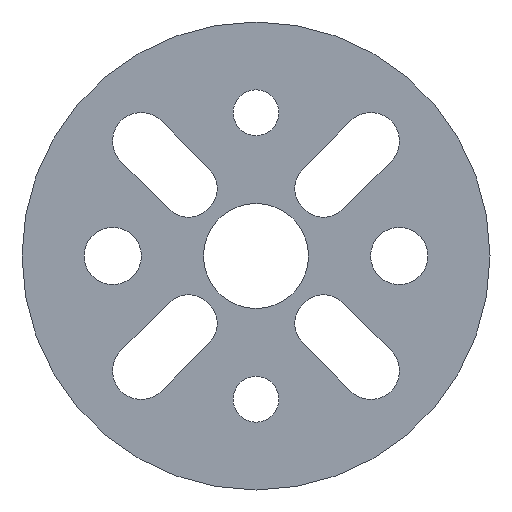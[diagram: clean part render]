
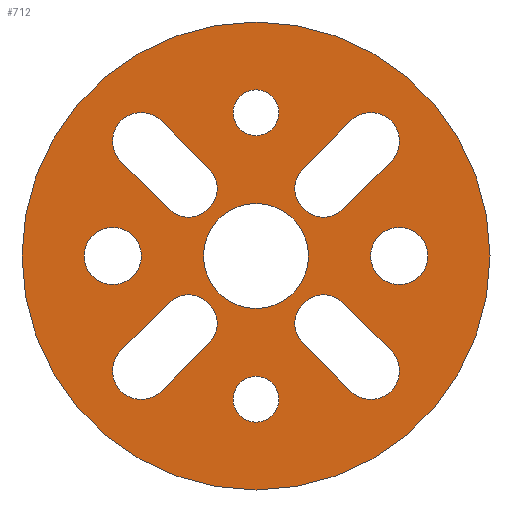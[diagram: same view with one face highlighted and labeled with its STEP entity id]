
A CAD part, left-side view. The second image highlights one B-rep face of the part: STEP entity #712.
In plain terms, the highlighted planar face has unit normal (-1, 0, 0).
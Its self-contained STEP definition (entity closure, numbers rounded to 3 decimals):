
#86=CARTESIAN_POINT('Axis2P3D Location',(-3.,0.,15.)) ;
#90=CARTESIAN_POINT('Vertex',(-3.,-2.4,15.)) ;
#92=CARTESIAN_POINT('Vertex',(-3.,2.4,15.)) ;
#113=CARTESIAN_POINT('Axis2P3D Location',(-3.,0.,15.)) ;
#135=CARTESIAN_POINT('Vertex',(-3.,24.5,0.)) ;
#140=CARTESIAN_POINT('Axis2P3D Location',(-3.,0.,0.)) ;
#144=CARTESIAN_POINT('Vertex',(-3.,-24.5,0.)) ;
#166=CARTESIAN_POINT('Axis2P3D Location',(-3.,0.,0.)) ;
#201=CARTESIAN_POINT('Vertex',(-3.,-5.5,0.)) ;
#204=CARTESIAN_POINT('Axis2P3D Location',(-3.,0.,0.)) ;
#208=CARTESIAN_POINT('Vertex',(-3.,5.5,0.)) ;
#236=CARTESIAN_POINT('Axis2P3D Location',(-3.,0.,0.)) ;
#260=CARTESIAN_POINT('Vertex',(-3.,12.,0.)) ;
#274=CARTESIAN_POINT('Vertex',(-3.,18.,0.)) ;
#277=CARTESIAN_POINT('Axis2P3D Location',(-3.,15.,0.)) ;
#302=CARTESIAN_POINT('Axis2P3D Location',(-3.,15.,0.)) ;
#326=CARTESIAN_POINT('Vertex',(-3.,-18.,0.)) ;
#340=CARTESIAN_POINT('Vertex',(-3.,-12.,0.)) ;
#343=CARTESIAN_POINT('Axis2P3D Location',(-3.,-15.,0.)) ;
#361=CARTESIAN_POINT('Axis2P3D Location',(-3.,-15.,0.)) ;
#507=CARTESIAN_POINT('Axis2P3D Location',(-3.,0.,-15.)) ;
#511=CARTESIAN_POINT('Vertex',(-3.,-2.4,-15.)) ;
#513=CARTESIAN_POINT('Vertex',(-3.,2.4,-15.)) ;
#534=CARTESIAN_POINT('Axis2P3D Location',(-3.,0.,-15.)) ;
#547=CARTESIAN_POINT('Axis2P3D Location',(-3.,0.,0.)) ;
#556=CARTESIAN_POINT('Line Origine',(-3.,7.425,11.667)) ;
#560=CARTESIAN_POINT('Vertex',(-3.,4.95,9.192)) ;
#562=CARTESIAN_POINT('Vertex',(-3.,9.899,14.142)) ;
#565=CARTESIAN_POINT('Axis2P3D Location',(-3.,7.071,7.071)) ;
#569=CARTESIAN_POINT('Vertex',(-3.,9.192,4.95)) ;
#572=CARTESIAN_POINT('Line Origine',(-3.,11.667,7.425)) ;
#576=CARTESIAN_POINT('Vertex',(-3.,14.142,9.899)) ;
#579=CARTESIAN_POINT('Axis2P3D Location',(-3.,12.021,12.021)) ;
#610=CARTESIAN_POINT('Line Origine',(-3.,-7.425,11.667)) ;
#614=CARTESIAN_POINT('Vertex',(-3.,-9.899,14.142)) ;
#616=CARTESIAN_POINT('Vertex',(-3.,-4.95,9.192)) ;
#619=CARTESIAN_POINT('Axis2P3D Location',(-3.,-12.021,12.021)) ;
#623=CARTESIAN_POINT('Vertex',(-3.,-14.142,9.899)) ;
#626=CARTESIAN_POINT('Line Origine',(-3.,-11.667,7.425)) ;
#630=CARTESIAN_POINT('Vertex',(-3.,-9.192,4.95)) ;
#633=CARTESIAN_POINT('Axis2P3D Location',(-3.,-7.071,7.071)) ;
#644=CARTESIAN_POINT('Line Origine',(-3.,-11.667,-7.425)) ;
#648=CARTESIAN_POINT('Vertex',(-3.,-14.142,-9.899)) ;
#650=CARTESIAN_POINT('Vertex',(-3.,-9.192,-4.95)) ;
#653=CARTESIAN_POINT('Axis2P3D Location',(-3.,-12.021,-12.021)) ;
#657=CARTESIAN_POINT('Vertex',(-3.,-9.899,-14.142)) ;
#660=CARTESIAN_POINT('Line Origine',(-3.,-7.425,-11.667)) ;
#664=CARTESIAN_POINT('Vertex',(-3.,-4.95,-9.192)) ;
#667=CARTESIAN_POINT('Axis2P3D Location',(-3.,-7.071,-7.071)) ;
#678=CARTESIAN_POINT('Line Origine',(-3.,7.425,-11.667)) ;
#682=CARTESIAN_POINT('Vertex',(-3.,9.899,-14.142)) ;
#684=CARTESIAN_POINT('Vertex',(-3.,4.95,-9.192)) ;
#687=CARTESIAN_POINT('Axis2P3D Location',(-3.,12.021,-12.021)) ;
#691=CARTESIAN_POINT('Vertex',(-3.,14.142,-9.899)) ;
#694=CARTESIAN_POINT('Line Origine',(-3.,11.667,-7.425)) ;
#698=CARTESIAN_POINT('Vertex',(-3.,9.192,-4.95)) ;
#701=CARTESIAN_POINT('Axis2P3D Location',(-3.,7.071,-7.071)) ;
#558=VECTOR('Line Direction',#557,1.) ;
#574=VECTOR('Line Direction',#573,1.) ;
#612=VECTOR('Line Direction',#611,1.) ;
#628=VECTOR('Line Direction',#627,1.) ;
#646=VECTOR('Line Direction',#645,1.) ;
#662=VECTOR('Line Direction',#661,1.) ;
#680=VECTOR('Line Direction',#679,1.) ;
#696=VECTOR('Line Direction',#695,1.) ;
#87=DIRECTION('Axis2P3D Direction',(-1.,0.,-0.)) ;
#114=DIRECTION('Axis2P3D Direction',(-1.,0.,-0.)) ;
#141=DIRECTION('Axis2P3D Direction',(1.,0.,0.)) ;
#167=DIRECTION('Axis2P3D Direction',(1.,0.,0.)) ;
#205=DIRECTION('Axis2P3D Direction',(1.,0.,0.)) ;
#237=DIRECTION('Axis2P3D Direction',(1.,0.,0.)) ;
#278=DIRECTION('Axis2P3D Direction',(1.,0.,-0.)) ;
#303=DIRECTION('Axis2P3D Direction',(1.,0.,-0.)) ;
#344=DIRECTION('Axis2P3D Direction',(1.,0.,0.)) ;
#362=DIRECTION('Axis2P3D Direction',(1.,0.,0.)) ;
#508=DIRECTION('Axis2P3D Direction',(-1.,0.,0.)) ;
#535=DIRECTION('Axis2P3D Direction',(-1.,0.,0.)) ;
#548=DIRECTION('Axis2P3D Direction',(1.,0.,0.)) ;
#549=DIRECTION('Axis2P3D XDirection',(0.,1.,0.)) ;
#557=DIRECTION('Vector Direction',(0.,0.707,0.707)) ;
#566=DIRECTION('Axis2P3D Direction',(1.,0.,0.)) ;
#573=DIRECTION('Vector Direction',(0.,-0.707,-0.707)) ;
#580=DIRECTION('Axis2P3D Direction',(1.,0.,0.)) ;
#611=DIRECTION('Vector Direction',(0.,0.707,-0.707)) ;
#620=DIRECTION('Axis2P3D Direction',(1.,0.,0.)) ;
#627=DIRECTION('Vector Direction',(0.,-0.707,0.707)) ;
#634=DIRECTION('Axis2P3D Direction',(1.,0.,0.)) ;
#645=DIRECTION('Vector Direction',(0.,0.707,0.707)) ;
#654=DIRECTION('Axis2P3D Direction',(1.,0.,0.)) ;
#661=DIRECTION('Vector Direction',(0.,-0.707,-0.707)) ;
#668=DIRECTION('Axis2P3D Direction',(1.,0.,0.)) ;
#679=DIRECTION('Vector Direction',(0.,-0.707,0.707)) ;
#688=DIRECTION('Axis2P3D Direction',(1.,0.,0.)) ;
#695=DIRECTION('Vector Direction',(0.,0.707,-0.707)) ;
#702=DIRECTION('Axis2P3D Direction',(1.,0.,0.)) ;
#88=AXIS2_PLACEMENT_3D('Circle Axis2P3D',#86,#87,$) ;
#115=AXIS2_PLACEMENT_3D('Circle Axis2P3D',#113,#114,$) ;
#142=AXIS2_PLACEMENT_3D('Circle Axis2P3D',#140,#141,$) ;
#168=AXIS2_PLACEMENT_3D('Circle Axis2P3D',#166,#167,$) ;
#206=AXIS2_PLACEMENT_3D('Circle Axis2P3D',#204,#205,$) ;
#238=AXIS2_PLACEMENT_3D('Circle Axis2P3D',#236,#237,$) ;
#279=AXIS2_PLACEMENT_3D('Circle Axis2P3D',#277,#278,$) ;
#304=AXIS2_PLACEMENT_3D('Circle Axis2P3D',#302,#303,$) ;
#345=AXIS2_PLACEMENT_3D('Circle Axis2P3D',#343,#344,$) ;
#363=AXIS2_PLACEMENT_3D('Circle Axis2P3D',#361,#362,$) ;
#509=AXIS2_PLACEMENT_3D('Circle Axis2P3D',#507,#508,$) ;
#536=AXIS2_PLACEMENT_3D('Circle Axis2P3D',#534,#535,$) ;
#550=AXIS2_PLACEMENT_3D('Plane Axis2P3D',#547,#548,#549) ;
#567=AXIS2_PLACEMENT_3D('Circle Axis2P3D',#565,#566,$) ;
#581=AXIS2_PLACEMENT_3D('Circle Axis2P3D',#579,#580,$) ;
#621=AXIS2_PLACEMENT_3D('Circle Axis2P3D',#619,#620,$) ;
#635=AXIS2_PLACEMENT_3D('Circle Axis2P3D',#633,#634,$) ;
#655=AXIS2_PLACEMENT_3D('Circle Axis2P3D',#653,#654,$) ;
#669=AXIS2_PLACEMENT_3D('Circle Axis2P3D',#667,#668,$) ;
#689=AXIS2_PLACEMENT_3D('Circle Axis2P3D',#687,#688,$) ;
#703=AXIS2_PLACEMENT_3D('Circle Axis2P3D',#701,#702,$) ;
#559=LINE('Line',#556,#558) ;
#575=LINE('Line',#572,#574) ;
#613=LINE('Line',#610,#612) ;
#629=LINE('Line',#626,#628) ;
#647=LINE('Line',#644,#646) ;
#663=LINE('Line',#660,#662) ;
#681=LINE('Line',#678,#680) ;
#697=LINE('Line',#694,#696) ;
#89=CIRCLE('generated circle',#88,2.4) ;
#116=CIRCLE('generated circle',#115,2.4) ;
#143=CIRCLE('generated circle',#142,24.5) ;
#169=CIRCLE('generated circle',#168,24.5) ;
#207=CIRCLE('generated circle',#206,5.5) ;
#239=CIRCLE('generated circle',#238,5.5) ;
#280=CIRCLE('generated circle',#279,3.) ;
#305=CIRCLE('generated circle',#304,3.) ;
#346=CIRCLE('generated circle',#345,3.) ;
#364=CIRCLE('generated circle',#363,3.) ;
#510=CIRCLE('generated circle',#509,2.4) ;
#537=CIRCLE('generated circle',#536,2.4) ;
#568=CIRCLE('generated circle',#567,3.) ;
#582=CIRCLE('generated circle',#581,3.) ;
#622=CIRCLE('generated circle',#621,3.) ;
#636=CIRCLE('generated circle',#635,3.) ;
#656=CIRCLE('generated circle',#655,3.) ;
#670=CIRCLE('generated circle',#669,3.) ;
#690=CIRCLE('generated circle',#689,3.) ;
#704=CIRCLE('generated circle',#703,3.) ;
#551=PLANE('',#550) ;
#589=FACE_BOUND('',#584,.T.) ;
#593=FACE_BOUND('',#590,.T.) ;
#597=FACE_BOUND('',#594,.T.) ;
#601=FACE_BOUND('',#598,.T.) ;
#605=FACE_BOUND('',#602,.T.) ;
#609=FACE_BOUND('',#606,.T.) ;
#643=FACE_BOUND('',#638,.T.) ;
#677=FACE_BOUND('',#672,.T.) ;
#711=FACE_BOUND('',#706,.T.) ;
#94=EDGE_CURVE('',#91,#93,#89,.F.) ;
#117=EDGE_CURVE('',#93,#91,#116,.F.) ;
#146=EDGE_CURVE('',#136,#145,#143,.T.) ;
#170=EDGE_CURVE('',#145,#136,#169,.T.) ;
#210=EDGE_CURVE('',#209,#202,#207,.T.) ;
#240=EDGE_CURVE('',#202,#209,#239,.T.) ;
#281=EDGE_CURVE('',#261,#275,#280,.T.) ;
#306=EDGE_CURVE('',#275,#261,#305,.T.) ;
#347=EDGE_CURVE('',#327,#341,#346,.T.) ;
#365=EDGE_CURVE('',#341,#327,#364,.T.) ;
#515=EDGE_CURVE('',#512,#514,#510,.F.) ;
#538=EDGE_CURVE('',#514,#512,#537,.F.) ;
#564=EDGE_CURVE('',#561,#563,#559,.T.) ;
#571=EDGE_CURVE('',#561,#570,#568,.T.) ;
#578=EDGE_CURVE('',#577,#570,#575,.T.) ;
#583=EDGE_CURVE('',#577,#563,#582,.T.) ;
#618=EDGE_CURVE('',#615,#617,#613,.T.) ;
#625=EDGE_CURVE('',#615,#624,#622,.T.) ;
#632=EDGE_CURVE('',#631,#624,#629,.T.) ;
#637=EDGE_CURVE('',#631,#617,#636,.T.) ;
#652=EDGE_CURVE('',#649,#651,#647,.T.) ;
#659=EDGE_CURVE('',#649,#658,#656,.T.) ;
#666=EDGE_CURVE('',#665,#658,#663,.T.) ;
#671=EDGE_CURVE('',#665,#651,#670,.T.) ;
#686=EDGE_CURVE('',#683,#685,#681,.T.) ;
#693=EDGE_CURVE('',#683,#692,#690,.T.) ;
#700=EDGE_CURVE('',#699,#692,#697,.T.) ;
#705=EDGE_CURVE('',#699,#685,#704,.T.) ;
#552=EDGE_LOOP('',(#553,#554)) ;
#584=EDGE_LOOP('',(#585,#586,#587,#588)) ;
#590=EDGE_LOOP('',(#591,#592)) ;
#594=EDGE_LOOP('',(#595,#596)) ;
#598=EDGE_LOOP('',(#599,#600)) ;
#602=EDGE_LOOP('',(#603,#604)) ;
#606=EDGE_LOOP('',(#607,#608)) ;
#638=EDGE_LOOP('',(#639,#640,#641,#642)) ;
#672=EDGE_LOOP('',(#673,#674,#675,#676)) ;
#706=EDGE_LOOP('',(#707,#708,#709,#710)) ;
#553=ORIENTED_EDGE('',*,*,#170,.F.) ;
#554=ORIENTED_EDGE('',*,*,#146,.F.) ;
#585=ORIENTED_EDGE('',*,*,#564,.F.) ;
#586=ORIENTED_EDGE('',*,*,#571,.T.) ;
#587=ORIENTED_EDGE('',*,*,#578,.F.) ;
#588=ORIENTED_EDGE('',*,*,#583,.T.) ;
#591=ORIENTED_EDGE('',*,*,#538,.T.) ;
#592=ORIENTED_EDGE('',*,*,#515,.T.) ;
#595=ORIENTED_EDGE('',*,*,#117,.T.) ;
#596=ORIENTED_EDGE('',*,*,#94,.T.) ;
#599=ORIENTED_EDGE('',*,*,#347,.T.) ;
#600=ORIENTED_EDGE('',*,*,#365,.T.) ;
#603=ORIENTED_EDGE('',*,*,#281,.T.) ;
#604=ORIENTED_EDGE('',*,*,#306,.T.) ;
#607=ORIENTED_EDGE('',*,*,#210,.T.) ;
#608=ORIENTED_EDGE('',*,*,#240,.T.) ;
#639=ORIENTED_EDGE('',*,*,#618,.F.) ;
#640=ORIENTED_EDGE('',*,*,#625,.T.) ;
#641=ORIENTED_EDGE('',*,*,#632,.F.) ;
#642=ORIENTED_EDGE('',*,*,#637,.T.) ;
#673=ORIENTED_EDGE('',*,*,#652,.F.) ;
#674=ORIENTED_EDGE('',*,*,#659,.T.) ;
#675=ORIENTED_EDGE('',*,*,#666,.F.) ;
#676=ORIENTED_EDGE('',*,*,#671,.T.) ;
#707=ORIENTED_EDGE('',*,*,#686,.F.) ;
#708=ORIENTED_EDGE('',*,*,#693,.T.) ;
#709=ORIENTED_EDGE('',*,*,#700,.F.) ;
#710=ORIENTED_EDGE('',*,*,#705,.T.) ;
#91=VERTEX_POINT('',#90) ;
#93=VERTEX_POINT('',#92) ;
#136=VERTEX_POINT('',#135) ;
#145=VERTEX_POINT('',#144) ;
#202=VERTEX_POINT('',#201) ;
#209=VERTEX_POINT('',#208) ;
#261=VERTEX_POINT('',#260) ;
#275=VERTEX_POINT('',#274) ;
#327=VERTEX_POINT('',#326) ;
#341=VERTEX_POINT('',#340) ;
#512=VERTEX_POINT('',#511) ;
#514=VERTEX_POINT('',#513) ;
#561=VERTEX_POINT('',#560) ;
#563=VERTEX_POINT('',#562) ;
#570=VERTEX_POINT('',#569) ;
#577=VERTEX_POINT('',#576) ;
#615=VERTEX_POINT('',#614) ;
#617=VERTEX_POINT('',#616) ;
#624=VERTEX_POINT('',#623) ;
#631=VERTEX_POINT('',#630) ;
#649=VERTEX_POINT('',#648) ;
#651=VERTEX_POINT('',#650) ;
#658=VERTEX_POINT('',#657) ;
#665=VERTEX_POINT('',#664) ;
#683=VERTEX_POINT('',#682) ;
#685=VERTEX_POINT('',#684) ;
#692=VERTEX_POINT('',#691) ;
#699=VERTEX_POINT('',#698) ;
#712=ADVANCED_FACE('PartBody',(#555,#589,#593,#597,#601,#605,#609,#643,#677,#711),#551,.F.) ;
#555=FACE_OUTER_BOUND('',#552,.T.) ;
